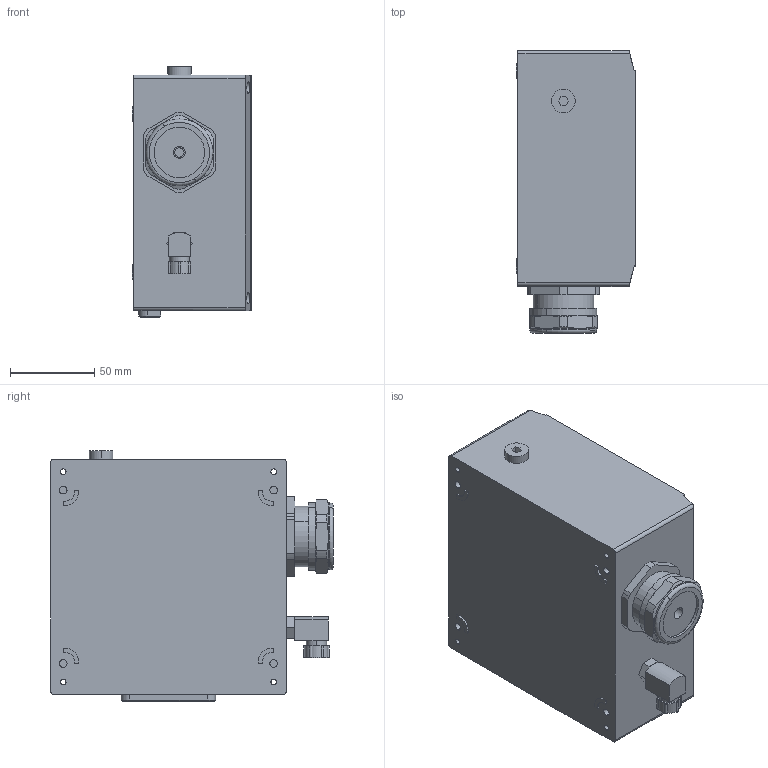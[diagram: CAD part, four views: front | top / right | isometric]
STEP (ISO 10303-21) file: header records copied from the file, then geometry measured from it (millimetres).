
FILE_DESCRIPTION (( 'STEP AP203' ), '1' );
FILE_NAME ('2105043 SGHF ILD, Größe S-1.STEP', '2013-02-05T12:59:40', ( 'Smy' ), ( 'Hewlett-Packard Company' ), 'SwSTEP 2.0', 'SolidWorks 2012', '' );
FILE_SCHEMA (( 'CONFIG_CONTROL_DESIGN' ));
Length unit declared in the file: millimetre
Products named in the file (1): 2105043  SGHF ILD, Größe S-1
Bounding box: 71 x 168 x 149 mm (x, y, z)
Volume: 372517.1 mm3; surface area: 196882 mm2
Topology: 1 solids, 9 shells, 720 faces, 1807 edges, 1172 vertices
Faces by surface type: plane 331, cylinder 315, cone 54, torus 16, sphere 4
Entity records: 22260 total; most frequent: CARTESIAN_POINT 4335, DIRECTION 3951, ORIENTED_EDGE 3614, EDGE_CURVE 1807, AXIS2_PLACEMENT_3D 1528, VERTEX_POINT 1172, LINE 895, VECTOR 895
